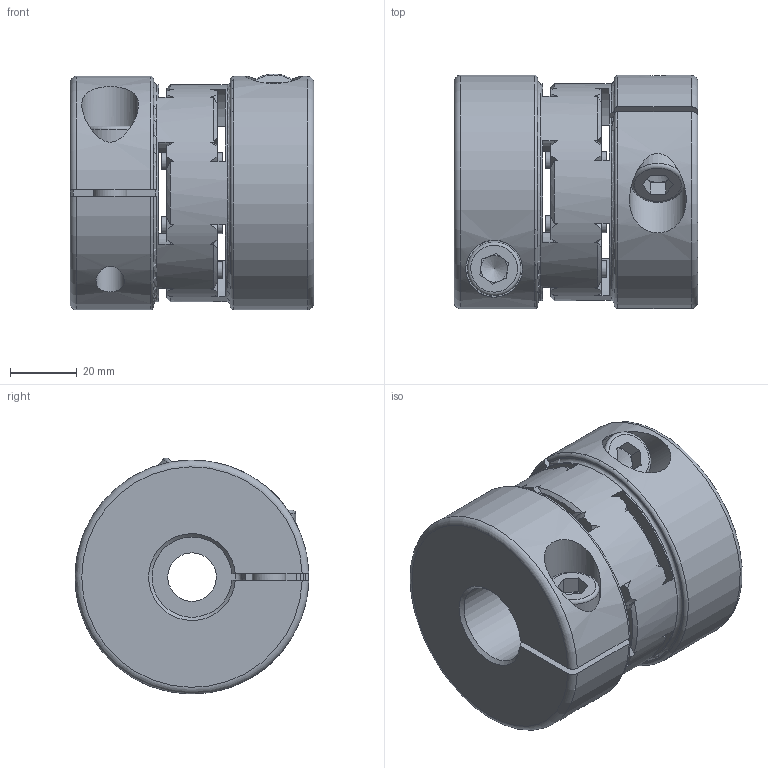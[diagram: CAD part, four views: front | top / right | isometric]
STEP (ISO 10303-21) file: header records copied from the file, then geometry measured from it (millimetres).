
FILE_DESCRIPTION(/* description */ ('Unknown','CAx-IF Rec.Pracs.---Representation and Presentation of Product Manufacturing Information (PMI)---4.0---2014-10-13','CAx-IF Rec.Pracs.---3D Tessellated Geometry---0.4---2014-09-14','2;1'),/* implementation_level */ '2;1');
FILE_NAME(/* name */ 'EKM - VA 140',/* time_stamp */ '2023-05-26T10:28:39+02:00',/* author */ ('Unknown'),/* organization */ ('Unknown'),/* preprocessor_version */ 'ST-DEVELOPER v18.102',/* originating_system */ 'Solid Edge',/* authorisation */ 'Unknown');
FILE_SCHEMA (('AP242_MANAGED_MODEL_BASED_3D_ENGINEERING_MIM_LF { 1 0 10303 442 1 1 4 }'));
Length unit declared in the file: millimetre
Products named in the file (1): EKM - VA 140
Bounding box: 73 x 69.99 x 70.64 mm (x, y, z)
Volume: 213407.3 mm3; surface area: 49944.5 mm2
Topology: 1 solids, 1 shells, 219 faces, 620 edges, 398 vertices
Faces by surface type: cylinder 75, cone 72, plane 62, torus 10
Full cylindrical faces by diameter (mm): 5 x8, 8.5 x2, 10 x2, 10.4 x2, 14.5 x1, 16 x2, 17 x2, 30 x2, 65 x1
Entity records: 9025 total; most frequent: CARTESIAN_POINT 2024, ORIENTED_EDGE 1148, DIRECTION 1132, EDGE_CURVE 574, AXIS2_PLACEMENT_3D 490, VERTEX_POINT 386, FACE_BOUND 280, EDGE_LOOP 278
